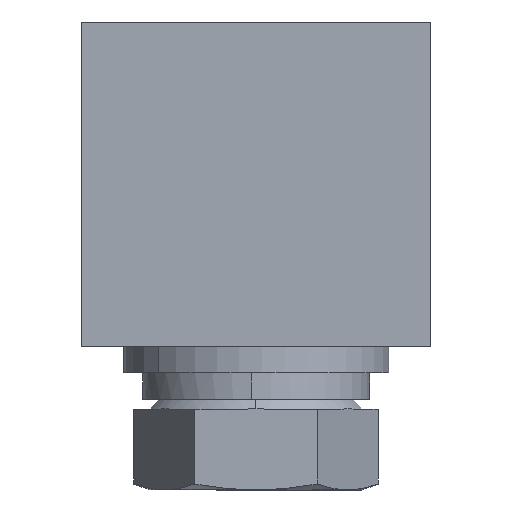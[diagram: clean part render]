
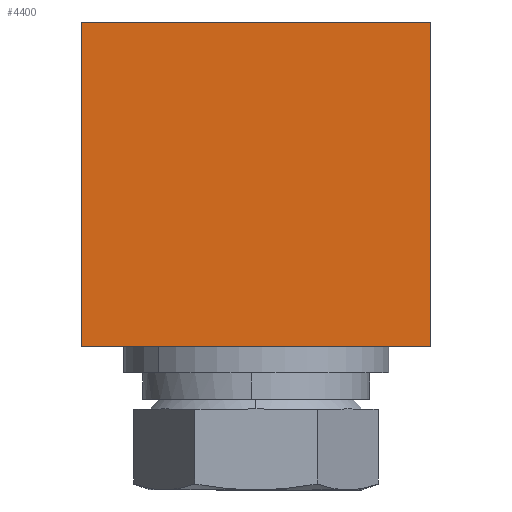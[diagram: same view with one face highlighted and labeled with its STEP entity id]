
A CAD part, left-side view. The second image highlights one B-rep face of the part: STEP entity #4400.
In plain terms, the highlighted planar face has unit normal (-1, 0, 0).
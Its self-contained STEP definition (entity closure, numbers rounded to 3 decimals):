
#36 = CARTESIAN_POINT ( 'NONE',  ( 0., 21., -19.5 ) ) ;
#599 = EDGE_CURVE ( 'NONE', #4332, #9585, #1437, .T. ) ;
#805 = AXIS2_PLACEMENT_3D ( 'NONE', #1541, #8081, #2384 ) ;
#1082 = ORIENTED_EDGE ( 'NONE', *, *, #9755, .T. ) ;
#1283 = LINE ( 'NONE', #10186, #8355 ) ;
#1437 = LINE ( 'NONE', #2975, #7101 ) ;
#1541 = CARTESIAN_POINT ( 'NONE',  ( 0., 21., -19.5 ) ) ;
#1586 = CARTESIAN_POINT ( 'NONE',  ( 0., 0., -19.5 ) ) ;
#2384 = DIRECTION ( 'NONE',  ( 0., 0., -1. ) ) ;
#2440 = ORIENTED_EDGE ( 'NONE', *, *, #5661, .F. ) ;
#2622 = LINE ( 'NONE', #7617, #5698 ) ;
#2677 = DIRECTION ( 'NONE',  ( 0., -1., 0. ) ) ;
#2892 = ORIENTED_EDGE ( 'NONE', *, *, #9925, .T. ) ;
#2975 = CARTESIAN_POINT ( 'NONE',  ( 0., 21., -19.5 ) ) ;
#3024 = CARTESIAN_POINT ( 'NONE',  ( 0., 0., -19.5 ) ) ;
#3511 = EDGE_LOOP ( 'NONE', ( #2892, #2440, #9438, #1082 ) ) ;
#3745 = DIRECTION ( 'NONE',  ( 0., -1., 0. ) ) ;
#4332 = VERTEX_POINT ( 'NONE', #36 ) ;
#4400 = ADVANCED_FACE ( 'NONE', ( #5648 ), #8888, .F. ) ;
#4404 = VERTEX_POINT ( 'NONE', #1586 ) ;
#5349 = DIRECTION ( 'NONE',  ( 0., 0., 1. ) ) ;
#5648 = FACE_OUTER_BOUND ( 'NONE', #3511, .T. ) ;
#5661 = EDGE_CURVE ( 'NONE', #9585, #10385, #1283, .T. ) ;
#5698 = VECTOR ( 'NONE', #2677, 1000. ) ;
#7101 = VECTOR ( 'NONE', #5349, 1000. ) ;
#7193 = VECTOR ( 'NONE', #8776, 1000. ) ;
#7617 = CARTESIAN_POINT ( 'NONE',  ( 0., 21., -19.5 ) ) ;
#7742 = CARTESIAN_POINT ( 'NONE',  ( 0., 0., 0. ) ) ;
#7967 = LINE ( 'NONE', #3024, #7193 ) ;
#8081 = DIRECTION ( 'NONE',  ( 1., 0., 0. ) ) ;
#8273 = CARTESIAN_POINT ( 'NONE',  ( 0., 21., 0. ) ) ;
#8355 = VECTOR ( 'NONE', #3745, 1000. ) ;
#8776 = DIRECTION ( 'NONE',  ( 0., 0., 1. ) ) ;
#8888 = PLANE ( 'NONE',  #805 ) ;
#9438 = ORIENTED_EDGE ( 'NONE', *, *, #599, .F. ) ;
#9585 = VERTEX_POINT ( 'NONE', #8273 ) ;
#9755 = EDGE_CURVE ( 'NONE', #4332, #4404, #2622, .T. ) ;
#9925 = EDGE_CURVE ( 'NONE', #4404, #10385, #7967, .T. ) ;
#10186 = CARTESIAN_POINT ( 'NONE',  ( 0., 21., 0. ) ) ;
#10385 = VERTEX_POINT ( 'NONE', #7742 ) ;
